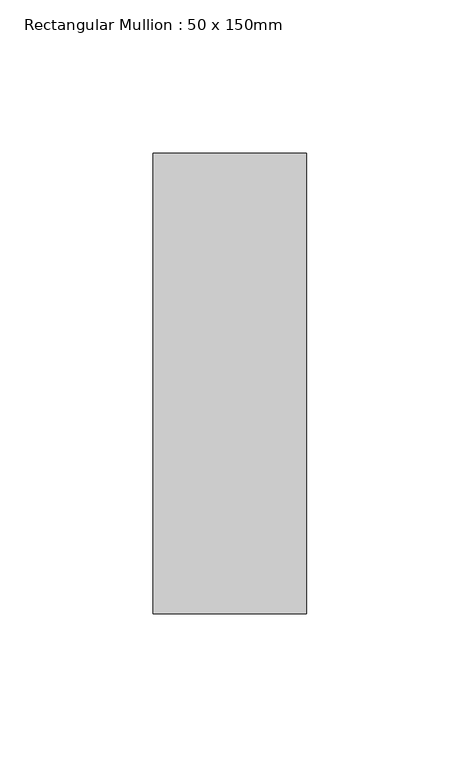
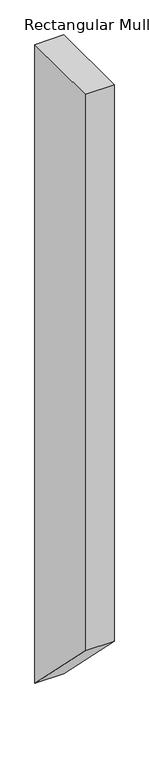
"""IFC4 building model written with IfcOpenShell, lengths in millimetres: member geometry, Rectangular Mullion : 50 x 150mm."""

from ifc_helpers import new_model, si_unit, frame, origin, place, context, project, spatial, polyline, outline, extrude, source, transform, mapped, element, save


def rectangular_mullion_50_x_150mm_6811f105(model_context):
    return source(origin(), model_context, "Body", "SweptSolid", [
        extrude(outline(polyline([(-75.0, 0.0), (75.0, 0.0), (75.0, -1165.4395036), (-75.0, -1015.4395036), (-75.0, 0.0)])), frame((-50.0, 0.0, 0.0), z_axis=(1.0, 0.0, 0.0), x_axis=(0.0, 1.0, 0.0)), (0.0, 0.0, 1.0), 50.0),
    ])


if __name__ == "__main__":
    model = new_model("IFC4")
    model_context = context("Model", 3, world=origin())
    ifc_project = project(units=[si_unit("LENGTHUNIT", "METRE", prefix="MILLI")], contexts=[model_context])
    site = spatial("IfcSite", under=ifc_project)
    building = spatial("IfcBuilding", under=site)
    placement = place(None, origin())
    rectangular_mullion_50_x_150mm_shape = rectangular_mullion_50_x_150mm_6811f105(model_context)
    element("IfcMember", 1, ObjectType="Rectangular Mullion : 50 x 150mm", at=placement, inside=building, context=model_context, shape_type="MappedRepresentation", body=[
        mapped(rectangular_mullion_50_x_150mm_shape, transform((0.0, 0.0, 0.0), x_axis=(1.0, 0.0, 0.0), y_axis=(0.0, 1.0, 0.0), z_axis=(0.0, 0.0, 1.0))),
    ])
    save(model, "model.ifc")
